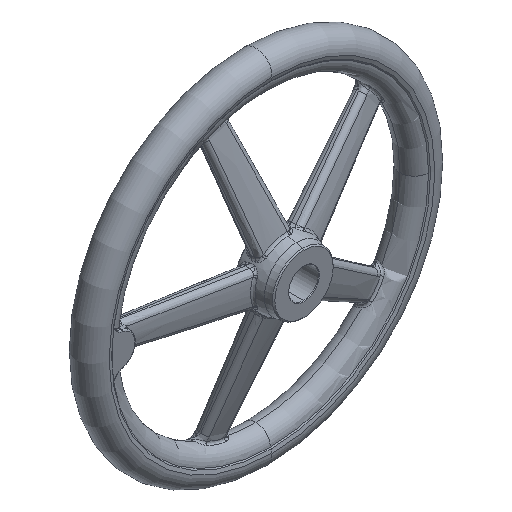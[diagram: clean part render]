
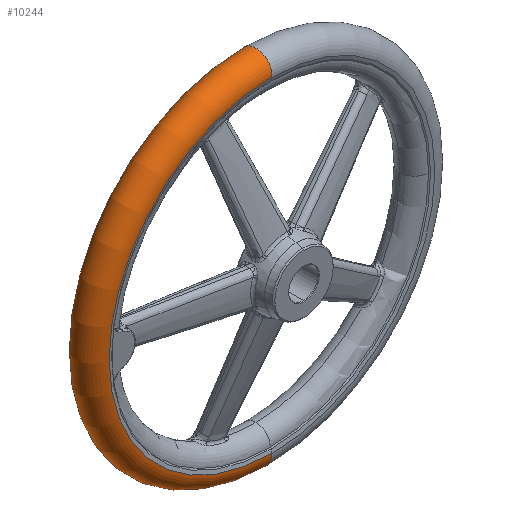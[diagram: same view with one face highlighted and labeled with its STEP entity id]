
A CAD part, isometric view. The second image highlights one B-rep face of the part: STEP entity #10244.
In plain terms, the highlighted toroidal (fillet/blend) face has major radius 143.462 mm and minor radius 14.039 mm.
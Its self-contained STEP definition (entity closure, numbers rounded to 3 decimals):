
#2534 = CARTESIAN_POINT ( 'NONE',  ( 0., 28., -142.423 ) ) ;
#8902 = DIRECTION ( 'NONE',  ( 0., 0., 1. ) ) ;
#8903 = DIRECTION ( 'NONE',  ( -1., 0., 0. ) ) ;
#8904 = CARTESIAN_POINT ( 'NONE',  ( 0., 42., -143.462 ) ) ;
#8905 = AXIS2_PLACEMENT_3D ( 'NONE', #8904, #8903, #8902 ) ;
#8906 = CIRCLE ( 'NONE', #8905, 14.038 ) ;
#10174 = ORIENTED_EDGE ( 'NONE', *, *, #41311, .F. ) ;
#10178 = ORIENTED_EDGE ( 'NONE', *, *, #29435, .T. ) ;
#10195 = EDGE_LOOP ( 'NONE', ( #10247, #10178, #10249, #10174 ) ) ;
#10244 = ADVANCED_FACE ( 'NONE', ( #19278 ), #19243, .T. ) ;
#10247 = ORIENTED_EDGE ( 'NONE', *, *, #41241, .F. ) ;
#10249 = ORIENTED_EDGE ( 'NONE', *, *, #53229, .T. ) ;
#19236 = AXIS2_PLACEMENT_3D ( 'NONE', #19274, #19273, #19272 ) ;
#19243 = TOROIDAL_SURFACE ( 'NONE', #19236, 143.462, 14.038 ) ;
#19272 = DIRECTION ( 'NONE',  ( 0., 0., -1. ) ) ;
#19273 = DIRECTION ( 'NONE',  ( 0., -1., 0. ) ) ;
#19274 = CARTESIAN_POINT ( 'NONE',  ( 0., 42., 0. ) ) ;
#19278 = FACE_OUTER_BOUND ( 'NONE', #10195, .T. ) ;
#29297 = VERTEX_POINT ( 'NONE', #32038 ) ;
#29435 = EDGE_CURVE ( 'NONE', #29297, #29531, #32628, .T. ) ;
#29531 = VERTEX_POINT ( 'NONE', #32812 ) ;
#32038 = CARTESIAN_POINT ( 'NONE',  ( 0., 56., 142.423 ) ) ;
#32628 = CIRCLE ( 'NONE', #32749, 142.423 ) ;
#32739 = DIRECTION ( 'NONE',  ( 0., 0., -1. ) ) ;
#32740 = DIRECTION ( 'NONE',  ( 0., -1., 0. ) ) ;
#32747 = CARTESIAN_POINT ( 'NONE',  ( 0., 56., 0. ) ) ;
#32749 = AXIS2_PLACEMENT_3D ( 'NONE', #32747, #32740, #32739 ) ;
#32812 = CARTESIAN_POINT ( 'NONE',  ( 0., 56., -142.423 ) ) ;
#41241 = EDGE_CURVE ( 'NONE', #29297, #41322, #51152, .T. ) ;
#41311 = EDGE_CURVE ( 'NONE', #41322, #49633, #51314, .T. ) ;
#41322 = VERTEX_POINT ( 'NONE', #51299 ) ;
#49633 = VERTEX_POINT ( 'NONE', #2534 ) ;
#51142 = AXIS2_PLACEMENT_3D ( 'NONE', #51197, #51257, #51252 ) ;
#51152 = CIRCLE ( 'NONE', #51142, 14.038 ) ;
#51197 = CARTESIAN_POINT ( 'NONE',  ( 0., 42., 143.462 ) ) ;
#51252 = DIRECTION ( 'NONE',  ( 0., 0., -1. ) ) ;
#51257 = DIRECTION ( 'NONE',  ( 1., 0., 0. ) ) ;
#51287 = DIRECTION ( 'NONE',  ( 0., 0., -1. ) ) ;
#51288 = DIRECTION ( 'NONE',  ( 0., -1., 0. ) ) ;
#51298 = CARTESIAN_POINT ( 'NONE',  ( 0., 28., 0. ) ) ;
#51299 = CARTESIAN_POINT ( 'NONE',  ( 0., 28., 142.423 ) ) ;
#51307 = AXIS2_PLACEMENT_3D ( 'NONE', #51298, #51288, #51287 ) ;
#51314 = CIRCLE ( 'NONE', #51307, 142.423 ) ;
#53229 = EDGE_CURVE ( 'NONE', #29531, #49633, #8906, .T. ) ;
